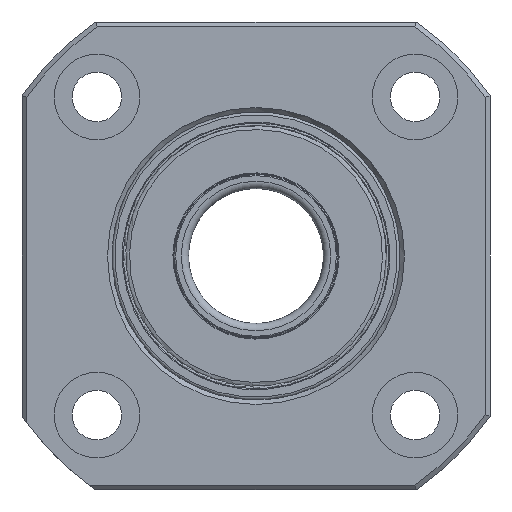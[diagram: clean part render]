
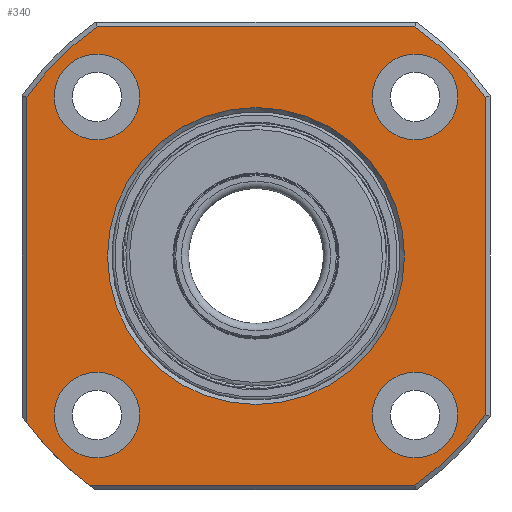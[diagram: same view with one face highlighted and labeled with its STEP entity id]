
A CAD part, left-side view. The second image highlights one B-rep face of the part: STEP entity #340.
In plain terms, the highlighted planar face has unit normal (-1, 0, 0).
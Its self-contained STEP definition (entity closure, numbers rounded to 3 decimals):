
#340=ADVANCED_FACE('',(#1960,#1962,#1964,#1966,#1968,#1970),#1972,.F.);
#1960=FACE_BOUND('',#1961,.T.);
#1961=EDGE_LOOP('',(#3295,#3296,#3297,#3298,#3299,#3300,#3301,#3302));
#1962=FACE_BOUND('',#1963,.T.);
#1963=EDGE_LOOP('',(#3303));
#1964=FACE_BOUND('',#1965,.T.);
#1965=EDGE_LOOP('',(#3304));
#1966=FACE_BOUND('',#1967,.T.);
#1967=EDGE_LOOP('',(#3305));
#1968=FACE_BOUND('',#1969,.T.);
#1969=EDGE_LOOP('',(#3306));
#1970=FACE_BOUND('',#1971,.T.);
#1971=EDGE_LOOP('',(#3307));
#1972=PLANE('',#1973);
#1973=AXIS2_PLACEMENT_3D('',#1974,#1975,#1976);
#1974=CARTESIAN_POINT('',(0.,16.,0.));
#1975=DIRECTION('',(1.,0.,0.));
#1976=DIRECTION('',(0.,0.,-1.));
#3295=ORIENTED_EDGE('',*,*,#3960,.T.);
#3296=ORIENTED_EDGE('',*,*,#3972,.T.);
#3297=ORIENTED_EDGE('',*,*,#3973,.T.);
#3298=ORIENTED_EDGE('',*,*,#3974,.T.);
#3299=ORIENTED_EDGE('',*,*,#3975,.T.);
#3300=ORIENTED_EDGE('',*,*,#3976,.T.);
#3301=ORIENTED_EDGE('',*,*,#3977,.T.);
#3302=ORIENTED_EDGE('',*,*,#3978,.T.);
#3303=ORIENTED_EDGE('',*,*,#3926,.T.);
#3304=ORIENTED_EDGE('',*,*,#3930,.F.);
#3305=ORIENTED_EDGE('',*,*,#3934,.F.);
#3306=ORIENTED_EDGE('',*,*,#3938,.F.);
#3307=ORIENTED_EDGE('',*,*,#3942,.F.);
#3926=EDGE_CURVE('',#4273,#4273,#4274,.T.);
#3930=EDGE_CURVE('',#4281,#4281,#4282,.T.);
#3934=EDGE_CURVE('',#4289,#4289,#4290,.T.);
#3938=EDGE_CURVE('',#4297,#4297,#4298,.T.);
#3942=EDGE_CURVE('',#4305,#4305,#4306,.T.);
#3960=EDGE_CURVE('',#4342,#4340,#4343,.T.);
#3972=EDGE_CURVE('',#4340,#4365,#4366,.T.);
#3973=EDGE_CURVE('',#4365,#4367,#4368,.T.);
#3974=EDGE_CURVE('',#4367,#4369,#4370,.T.);
#3975=EDGE_CURVE('',#4369,#4371,#4372,.T.);
#3976=EDGE_CURVE('',#4371,#4373,#4374,.T.);
#3977=EDGE_CURVE('',#4373,#4375,#4376,.T.);
#3978=EDGE_CURVE('',#4375,#4342,#4377,.T.);
#4273=VERTEX_POINT('',#4941);
#4274=CIRCLE('',#4942,16.5);
#4281=VERTEX_POINT('',#5016);
#4282=CIRCLE('',#5017,4.75);
#4289=VERTEX_POINT('',#5036);
#4290=CIRCLE('',#5037,4.75);
#4297=VERTEX_POINT('',#5056);
#4298=CIRCLE('',#5057,4.75);
#4305=VERTEX_POINT('',#5076);
#4306=CIRCLE('',#5077,4.75);
#4340=VERTEX_POINT('',#5155);
#4342=VERTEX_POINT('',#5160);
#4343=CIRCLE('',#5161,31.5);
#4365=VERTEX_POINT('',#5214);
#4366=LINE('',#5215,#5216);
#4367=VERTEX_POINT('',#5218);
#4368=CIRCLE('',#5219,31.);
#4369=VERTEX_POINT('',#5223);
#4370=LINE('',#5224,#5225);
#4371=VERTEX_POINT('',#5227);
#4372=CIRCLE('',#5228,31.);
#4373=VERTEX_POINT('',#5232);
#4374=LINE('',#5233,#5234);
#4375=VERTEX_POINT('',#5236);
#4376=CIRCLE('',#5237,31.);
#4377=LINE('',#5241,#5242);
#4941=CARTESIAN_POINT('',(0.,0.,16.5));
#4942=AXIS2_PLACEMENT_3D('',#4943,#4944,#4945);
#4943=CARTESIAN_POINT('',(0.,0.,0.));
#4944=DIRECTION('',(1.,0.,0.));
#4945=DIRECTION('',(-0.,0.,1.));
#5016=CARTESIAN_POINT('',(0.,17.678,-12.928));
#5017=AXIS2_PLACEMENT_3D('',#5018,#5019,#5020);
#5018=CARTESIAN_POINT('',(0.,17.678,-17.678));
#5019=DIRECTION('',(-1.,-0.,-0.));
#5020=DIRECTION('',(0.,0.,-1.));
#5036=CARTESIAN_POINT('',(0.,17.678,22.428));
#5037=AXIS2_PLACEMENT_3D('',#5038,#5039,#5040);
#5038=CARTESIAN_POINT('',(0.,17.678,17.678));
#5039=DIRECTION('',(-1.,-0.,-0.));
#5040=DIRECTION('',(0.,0.,-1.));
#5056=CARTESIAN_POINT('',(0.,-17.678,22.428));
#5057=AXIS2_PLACEMENT_3D('',#5058,#5059,#5060);
#5058=CARTESIAN_POINT('',(0.,-17.678,17.678));
#5059=DIRECTION('',(-1.,-0.,-0.));
#5060=DIRECTION('',(0.,0.,-1.));
#5076=CARTESIAN_POINT('',(0.,-17.678,-12.928));
#5077=AXIS2_PLACEMENT_3D('',#5078,#5079,#5080);
#5078=CARTESIAN_POINT('',(0.,-17.678,-17.678));
#5079=DIRECTION('',(-1.,-0.,-0.));
#5080=DIRECTION('',(0.,0.,-1.));
#5155=CARTESIAN_POINT('',(0.,18.493,-25.5));
#5160=CARTESIAN_POINT('',(0.,25.5,-18.493));
#5161=AXIS2_PLACEMENT_3D('',#5162,#5163,#5164);
#5162=CARTESIAN_POINT('',(0.,0.,0.));
#5163=DIRECTION('',(-1.,0.,-0.));
#5164=DIRECTION('',(0.,0.81,-0.587));
#5214=CARTESIAN_POINT('',(0.,-17.628,-25.5));
#5215=CARTESIAN_POINT('',(0.,18.493,-25.5));
#5216=VECTOR('',#5217,1.);
#5217=DIRECTION('',(0.,-1.,0.));
#5218=CARTESIAN_POINT('',(0.,-25.5,-17.628));
#5219=AXIS2_PLACEMENT_3D('',#5220,#5221,#5222);
#5220=CARTESIAN_POINT('',(0.,0.,0.));
#5221=DIRECTION('',(-1.,-0.,0.));
#5222=DIRECTION('',(0.,-0.569,-0.823));
#5223=CARTESIAN_POINT('',(0.,-25.5,17.628));
#5224=CARTESIAN_POINT('',(0.,-25.5,-17.628));
#5225=VECTOR('',#5226,1.);
#5226=DIRECTION('',(0.,0.,1.));
#5227=CARTESIAN_POINT('',(0.,-17.628,25.5));
#5228=AXIS2_PLACEMENT_3D('',#5229,#5230,#5231);
#5229=CARTESIAN_POINT('',(0.,0.,0.));
#5230=DIRECTION('',(-1.,-0.,0.));
#5231=DIRECTION('',(0.,-0.823,0.569));
#5232=CARTESIAN_POINT('',(0.,17.628,25.5));
#5233=CARTESIAN_POINT('',(0.,-17.628,25.5));
#5234=VECTOR('',#5235,1.);
#5235=DIRECTION('',(0.,1.,0.));
#5236=CARTESIAN_POINT('',(0.,25.5,17.628));
#5237=AXIS2_PLACEMENT_3D('',#5238,#5239,#5240);
#5238=CARTESIAN_POINT('',(0.,0.,0.));
#5239=DIRECTION('',(-1.,0.,-0.));
#5240=DIRECTION('',(0.,0.569,0.823));
#5241=CARTESIAN_POINT('',(0.,25.5,17.628));
#5242=VECTOR('',#5243,1.);
#5243=DIRECTION('',(0.,0.,-1.));
